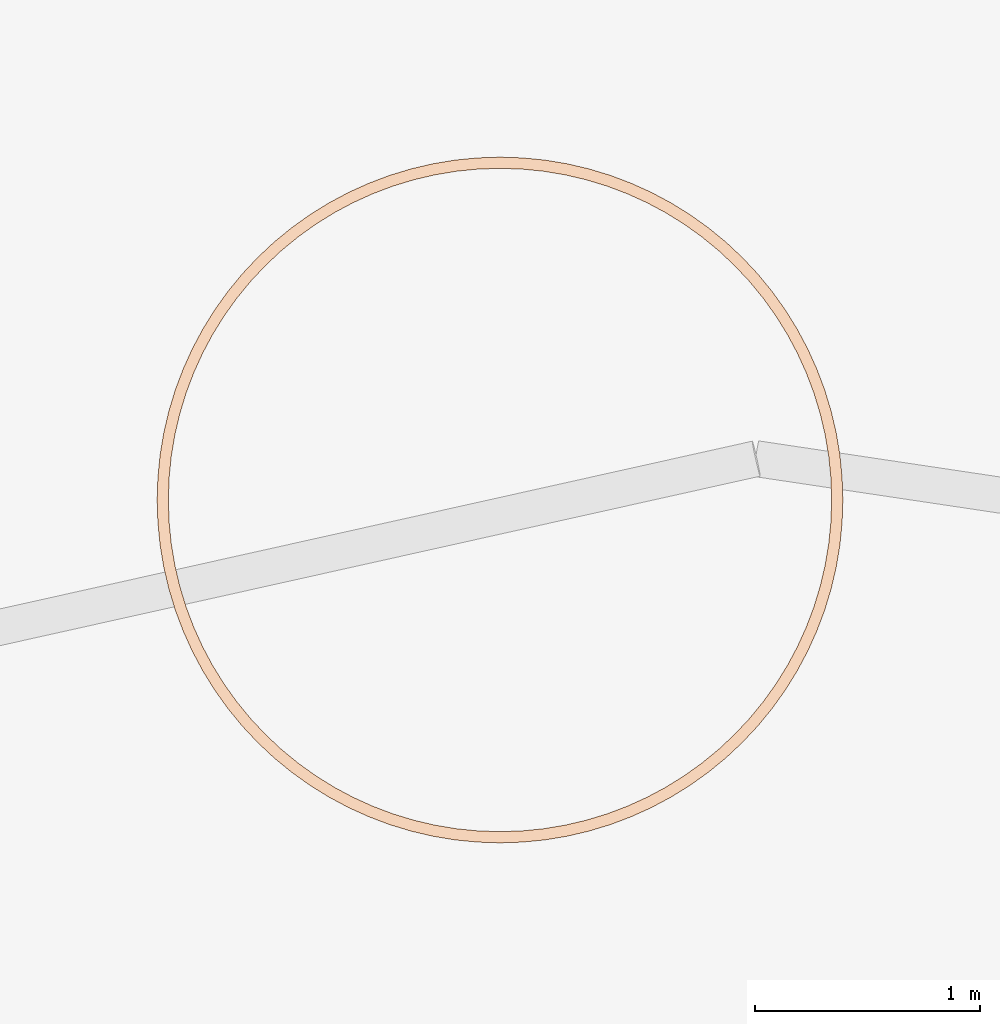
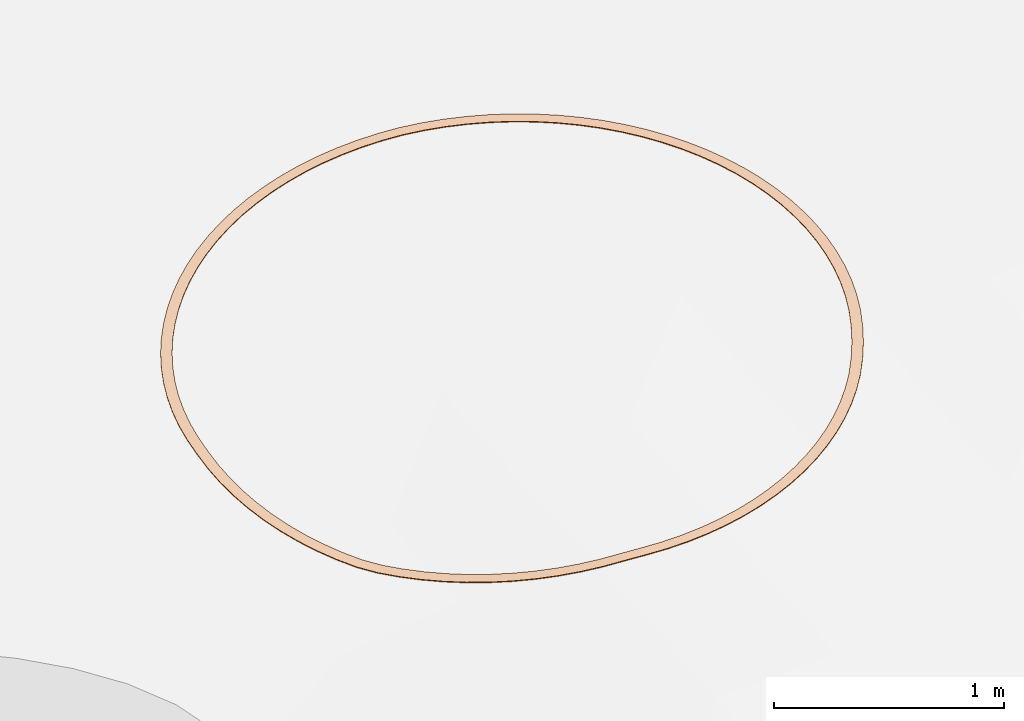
# Not in any storey, part 10 of 46: 1 geographic element.
"""IFC4 model written with IfcOpenShell, lengths in metres."""

from ifc_helpers import new_model, si_unit, direction, frame, origin_with_axes, place, context, subcontext, project, spatial, polygons, material, element, save


model = new_model("IFC4")

# Units and contexts
model_context = context("Model", 3, precision=1e-05, world=origin_with_axes(), true_north=direction((0.0, 1.0)))
body_context = subcontext(model_context, "Body", "Model", "MODEL_VIEW")
ifc_project = project(units=[si_unit("VOLUMEUNIT", "CUBIC_METRE"), si_unit("LENGTHUNIT", "METRE"), si_unit("AREAUNIT", "SQUARE_METRE")], contexts=[model_context])

# Site
site_placement = place(None, origin_with_axes())
site = spatial("IfcSite", under=ifc_project, at=site_placement, Name="Lares · Rua das Mercês · artigo 4771")

# Geographic element
ifc_material = material(Name="Marcação de plantação · linha no terreno", Category="stone")
geographic_element_placement = place(site_placement, frame((0.0, 0.0, 0.0), z_axis=(0.0, 0.0, 1.0), x_axis=(1.0, -1.03767253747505e-17, 0.0)))
element("IfcGeographicElement", 1, at=geographic_element_placement, inside=site, material=ifc_material, Name="Marcação no solo · árvore indicativa 02", ObjectType="Marcação no solo · árvore indicativa 02", PredefinedType="USERDEFINED", context=body_context, shape_type="Tessellation", body=[
    polygons([(4.16338140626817, 8.50666534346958, 12.3839815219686), (4.16338140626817, 8.50666534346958, 12.3879815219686), (4.21338140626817, 8.50666534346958, 12.3871584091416), (4.21338140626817, 8.50666534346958, 12.3911584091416), (4.16022331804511, 8.60313495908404, 12.3911306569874), (4.16022331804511, 8.60313495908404, 12.3951306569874), (4.21011626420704, 8.60640511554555, 12.3945498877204), (4.21011626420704, 8.60640511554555, 12.3985498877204), (4.15076257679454, 8.69919147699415, 12.3978478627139), (4.15076257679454, 8.69919147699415, 12.4018478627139), (4.20033481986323, 8.70571778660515, 12.4014947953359), (4.20033481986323, 8.70571778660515, 12.4054947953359), (4.13503969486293, 8.79442356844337, 12.4041043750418), (4.13503969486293, 8.79442356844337, 12.4081043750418), (4.18407895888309, 8.80417808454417, 12.4079633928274), (4.18407895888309, 8.80417808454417, 12.4119633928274), (4.11312200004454, 8.88842343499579, 12.4098734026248), (4.11312200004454, 8.88842343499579, 12.4138734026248), (4.16141829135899, 8.90136438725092, 12.4139279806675), (4.16141829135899, 8.90136438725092, 12.4179279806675), (4.08510334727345, 8.98078855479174, 12.4151302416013), (4.08510334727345, 8.98078855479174, 12.4191302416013), (4.1324498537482, 8.9968605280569, 12.4193630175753), (4.1324498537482, 8.9968605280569, 12.4233630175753), (4.05110371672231, 9.07112340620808, 12.4198523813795), (4.05110371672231, 9.07112340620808, 12.4238523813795), (4.09729769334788, 9.09025757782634, 12.4242452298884), (4.09729769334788, 9.09025757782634, 12.4282452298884), (4.01126870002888, 9.1590411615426, 12.424019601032), (4.01126870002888, 9.1590411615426, 12.428019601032), (4.05611233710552, 9.18115559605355, 12.4285537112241), (4.05611233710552, 9.18115559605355, 12.4325537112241), (3.96576887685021, 9.24416534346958, 12.4276140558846), (3.96576887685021, 9.24416534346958, 12.4316140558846), (4.00907014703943, 9.26916534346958, 12.4322700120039), (4.00907014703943, 9.26916534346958, 12.4362700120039), (3.91479908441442, 9.32613143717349, 12.4306203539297), (3.91479908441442, 9.32613143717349, 12.4346203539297), (3.95637256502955, 9.35390994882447, 12.4353782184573), (3.95637256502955, 9.35390994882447, 12.4393782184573), (3.85857758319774, 9.40458845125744, 12.4330256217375), (3.85857758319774, 9.40458845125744, 12.4370256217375), (3.8982452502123, 9.43502652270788, 12.437865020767), (3.8982452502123, 9.43502652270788, 12.441865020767), (3.79734512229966, 9.47920042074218, 12.434819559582), (3.79734512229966, 9.47920042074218, 12.438819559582), (3.83493711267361, 9.51216771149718, 12.4397197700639), (3.83493711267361, 9.51216771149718, 12.4437197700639), (3.73136390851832, 9.54964784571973, 12.435994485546), (3.73136390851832, 9.54964784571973, 12.439994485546), (3.76671924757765, 9.58500318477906, 12.4409345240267), (3.76671924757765, 9.58500318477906, 12.4449345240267), (3.66091648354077, 9.61562905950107, 12.4365453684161), (3.66091648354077, 9.61562905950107, 12.4405453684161), (3.69388377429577, 9.65322104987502, 12.4415040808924), (3.69388377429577, 9.65322104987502, 12.4455040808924), (3.58630451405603, 9.67686152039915, 12.4364698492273), (3.58630451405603, 9.67686152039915, 12.4404698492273), (3.61674258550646, 9.71652918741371, 12.4414260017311), (3.61674258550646, 9.71652918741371, 12.4454260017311), (3.50784749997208, 9.73308302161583, 12.4357682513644), (3.50784749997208, 9.73308302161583, 12.4397682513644), (3.53562601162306, 9.77465650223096, 12.4407006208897), (3.53562601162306, 9.77465650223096, 12.4447006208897), (3.42588140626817, 9.78405281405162, 12.434443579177), (3.42588140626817, 9.78405281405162, 12.438443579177), (3.45088140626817, 9.82735408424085, 12.4393310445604), (3.45088140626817, 9.82735408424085, 12.4433310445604), (3.34075722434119, 9.82955263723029, 12.4325015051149), (3.34075722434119, 9.82955263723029, 12.4365015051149), (3.36287165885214, 9.87439627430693, 12.4373231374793), (3.36287165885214, 9.87439627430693, 12.4413231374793), (3.25283946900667, 9.86938765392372, 12.4299503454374), (3.25283946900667, 9.86938765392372, 12.4339503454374), (3.27197364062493, 9.91558163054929, 12.4346854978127), (3.27197364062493, 9.91558163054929, 12.4386854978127), (3.16250461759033, 9.90338728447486, 12.4268010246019), (3.16250461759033, 9.90338728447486, 12.4308010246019), (3.17857659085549, 9.95073379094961, 12.4314294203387), (3.17857659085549, 9.95073379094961, 12.4354294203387), (3.07013949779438, 9.93140593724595, 12.4230670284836), (3.07013949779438, 9.93140593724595, 12.4270670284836), (3.08308045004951, 9.97970222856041, 12.4275688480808), (3.08308045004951, 9.97970222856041, 12.4315688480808), (2.97613963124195, 9.95332363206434, 12.4185183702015), (2.97613963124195, 9.95332363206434, 12.4225183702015), (2.98589414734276, 10.0023628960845, 12.4229092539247), (2.98589414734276, 10.0023628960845, 12.4269092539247), (2.88090753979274, 9.96904651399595, 12.4119199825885), (2.88090753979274, 9.96904651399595, 12.4159199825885), (2.88743384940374, 10.0186187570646, 12.4160871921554), (2.88743384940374, 10.0186187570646, 12.4200871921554), (2.78485102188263, 9.97850725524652, 12.4047951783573), (2.78485102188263, 9.97850725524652, 12.4087951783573), (2.78812117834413, 10.0284002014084, 12.4087208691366), (2.78812117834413, 10.0284002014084, 12.4127208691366), (2.68838140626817, 9.98166534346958, 12.3971744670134), (2.68838140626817, 9.98166534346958, 12.4011744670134), (2.68838140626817, 10.0316653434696, 12.4008418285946), (2.68838140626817, 10.0316653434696, 12.4048418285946), (2.5919117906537, 9.97850725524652, 12.3890904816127), (2.5919117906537, 9.97850725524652, 12.3930904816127), (2.5886416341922, 10.0284002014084, 12.3924838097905), (2.5886416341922, 10.0284002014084, 12.3964838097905), (2.49585527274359, 9.96904651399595, 12.3805778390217), (2.49585527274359, 9.96904651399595, 12.3845778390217), (2.48932896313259, 10.0186187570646, 12.3836826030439), (2.48932896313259, 10.0186187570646, 12.3876826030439), (2.40062318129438, 9.95332363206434, 12.3716729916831), (2.40062318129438, 9.95332363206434, 12.3756729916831), (2.39086866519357, 10.0023628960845, 12.3744758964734), (2.39086866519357, 10.0023628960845, 12.3784758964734), (2.30662331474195, 9.93140593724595, 12.36241407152), (2.30662331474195, 9.93140593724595, 12.36641407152), (2.29368236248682, 9.97970222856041, 12.36490311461), (2.29368236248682, 9.97970222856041, 12.36890311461), (2.214258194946, 9.90338728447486, 12.3528407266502), (2.214258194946, 9.90338728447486, 12.3568407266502), (2.19818622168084, 9.95073379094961, 12.3550052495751), (2.19818622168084, 9.95073379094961, 12.3590052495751), (2.12392334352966, 9.86938765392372, 12.3429939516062), (2.12392334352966, 9.86938765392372, 12.3469939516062), (2.1047891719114, 9.91558163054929, 12.3448246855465), (2.1047891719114, 9.91558163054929, 12.3488246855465), (2.03600558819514, 9.82955263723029, 12.3329159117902), (2.03600558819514, 9.82955263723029, 12.3369159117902), (2.01389115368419, 9.87439627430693, 12.3344050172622), (2.01389115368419, 9.87439627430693, 12.3384050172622), (1.95088140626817, 9.78405281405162, 12.3226497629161), (1.95088140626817, 9.78405281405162, 12.3266497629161), (1.92588140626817, 9.82735408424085, 12.3237908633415), (1.92588140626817, 9.82735408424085, 12.3277908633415), (1.86891531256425, 9.73308302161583, 12.3122394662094), (1.86891531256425, 9.73308302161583, 12.3162394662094), (1.84113680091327, 9.77465650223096, 12.313027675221), (1.84113680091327, 9.77465650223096, 12.317027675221), (1.7904582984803, 9.67686152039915, 12.3017296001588), (1.7904582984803, 9.67686152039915, 12.3057296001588), (1.76002022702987, 9.71652918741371, 12.3021615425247), (1.76002022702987, 9.71652918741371, 12.3061615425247), (1.71584632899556, 9.61562905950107, 12.2911651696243), (1.71584632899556, 9.61562905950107, 12.2951651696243), (1.68287903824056, 9.65322104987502, 12.2912389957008), (1.68287903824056, 9.65322104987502, 12.2952389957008), (1.64539890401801, 9.54964784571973, 12.2805914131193), (1.64539890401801, 9.54964784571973, 12.2845914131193), (1.61004356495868, 9.58500318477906, 12.2803068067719), (1.61004356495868, 9.58500318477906, 12.2843068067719), (1.57941769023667, 9.47920042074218, 12.2700536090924), (1.57941769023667, 9.47920042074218, 12.2740536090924), (1.54182569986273, 9.51216771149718, 12.2694117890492), (1.54182569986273, 9.51216771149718, 12.2734117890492), (1.51818522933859, 9.40458845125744, 12.2599517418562), (1.51818522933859, 9.40458845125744, 12.2639517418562), (1.47851756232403, 9.43502652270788, 12.2589503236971), (1.47851756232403, 9.43502652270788, 12.2629503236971), (1.46196372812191, 9.32613143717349, 12.2505755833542), (1.46196372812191, 9.32613143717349, 12.2545755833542), (1.42039024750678, 9.35390994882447, 12.2492563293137), (1.42039024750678, 9.35390994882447, 12.2532563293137), (1.41099393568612, 9.24416534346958, 12.2413660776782), (1.41099393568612, 9.24416534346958, 12.2453660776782), (1.3676926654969, 9.26916534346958, 12.2397346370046), (1.3676926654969, 9.26916534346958, 12.2437346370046), (1.36549411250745, 9.1590411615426, 12.2323626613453), (1.36549411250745, 9.1590411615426, 12.2363626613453), (1.32065047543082, 9.18115559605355, 12.230426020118), (1.32065047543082, 9.18115559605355, 12.234426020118), (1.32565909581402, 9.07112340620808, 12.2236038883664), (1.32565909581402, 9.07112340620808, 12.2276038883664), (1.27946511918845, 9.09025757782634, 12.2213703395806), (1.27946511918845, 9.09025757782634, 12.2253703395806), (1.29165946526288, 8.98078855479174, 12.2151272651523), (1.29165946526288, 8.98078855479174, 12.2191272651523), (1.24431295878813, 8.9968605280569, 12.2126063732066), (1.24431295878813, 8.9968605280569, 12.2166063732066), (1.26364081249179, 8.8884234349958, 12.2069690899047), (1.26364081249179, 8.8884234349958, 12.2109690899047), (1.21534452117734, 8.90136438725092, 12.2041716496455), (1.21534452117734, 8.90136438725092, 12.2081716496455), (1.2417231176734, 8.79442356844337, 12.1991642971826), (1.2417231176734, 8.79442356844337, 12.2031642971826), (1.19268385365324, 8.80417808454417, 12.1961022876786), (1.19268385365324, 8.80417808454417, 12.2001022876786), (1.22600023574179, 8.69919147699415, 12.1917463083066), (1.22600023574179, 8.69919147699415, 12.1957463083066), (1.1764279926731, 8.70571778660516, 12.1884328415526), (1.1764279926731, 8.70571778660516, 12.1924328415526), (1.21653949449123, 8.60313495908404, 12.1831346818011), (1.21653949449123, 8.60313495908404, 12.1871346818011), (1.1666465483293, 8.60640511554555, 12.1795671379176), (1.1666465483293, 8.60640511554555, 12.1835671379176), (1.21338140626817, 8.50666534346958, 12.1690509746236), (1.21338140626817, 8.50666534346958, 12.1730509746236), (1.16338140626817, 8.50666534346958, 12.1650060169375), (1.16338140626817, 8.50666534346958, 12.1690060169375), (1.21653949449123, 8.41019572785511, 12.1554782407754), (1.21653949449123, 8.41019572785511, 12.1594782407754), (1.1666465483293, 8.40692557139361, 12.1509731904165), (1.1666465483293, 8.40692557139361, 12.1549731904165), (1.22600023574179, 8.314139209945, 12.1424746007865), (1.22600023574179, 8.314139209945, 12.1464746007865), (1.1764279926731, 8.307612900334, 12.137528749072), (1.1764279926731, 8.307612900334, 12.141528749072), (1.2417231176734, 8.21890711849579, 12.1300957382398), (1.2417231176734, 8.21890711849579, 12.1340957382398), (1.19268385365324, 8.20915260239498, 12.124730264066), (1.19268385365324, 8.20915260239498, 12.128730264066), (1.26364081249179, 8.12490725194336, 12.1183946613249), (1.26364081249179, 8.12490725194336, 12.1223946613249), (1.21534452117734, 8.11196629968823, 12.1126325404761), (1.21534452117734, 8.11196629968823, 12.1166325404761), (1.29165946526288, 8.03254213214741, 12.1074214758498), (1.29165946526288, 8.03254213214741, 12.1114214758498), (1.24431295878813, 8.01647015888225, 12.101287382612), (1.24431295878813, 8.01647015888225, 12.105287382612), (1.32565909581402, 7.94220728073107, 12.0972231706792), (1.32565909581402, 7.94220728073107, 12.1012231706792), (1.27946511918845, 7.92307310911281, 12.0907433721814), (1.27946511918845, 7.92307310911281, 12.0947433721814), (1.36549411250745, 7.85428952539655, 12.0878434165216), (1.36549411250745, 7.85428952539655, 12.0918434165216), (1.32065047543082, 7.8321750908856, 12.0810456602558), (1.32065047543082, 7.8321750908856, 12.0850456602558), (1.41099393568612, 7.76916534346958, 12.0793223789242), (1.41099393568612, 7.76916534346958, 12.0833223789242), (1.3676926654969, 7.74416534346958, 12.0722357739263), (1.3676926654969, 7.74416534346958, 12.0762357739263), (1.46196372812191, 7.68719924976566, 12.0716965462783), (1.46196372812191, 7.68719924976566, 12.0756965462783), (1.42039024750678, 7.65942073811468, 12.0643514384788), (1.42039024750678, 7.65942073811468, 12.0683514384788), (1.51818522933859, 7.60874223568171, 12.0705163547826), (1.51818522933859, 7.60874223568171, 12.0745163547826), (1.47851756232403, 7.57830416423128, 12.0632426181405), (1.47851756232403, 7.57830416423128, 12.0672426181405), (1.57941769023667, 7.53413026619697, 12.0742939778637), (1.57941769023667, 7.53413026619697, 12.0782939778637), (1.54182569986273, 7.50116297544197, 12.0671482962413), (1.54182569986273, 7.50116297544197, 12.0711482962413), (1.64539890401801, 7.46368284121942, 12.0789742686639), (1.64539890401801, 7.46368284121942, 12.0829742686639), (1.61004356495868, 7.42832750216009, 12.0719872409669), (1.61004356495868, 7.42832750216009, 12.0759872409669), (1.71584632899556, 7.39770162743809, 12.0845371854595), (1.71584632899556, 7.39770162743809, 12.0885371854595), (1.68287903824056, 7.36010963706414, 12.0777387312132), (1.68287903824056, 7.36010963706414, 12.0817387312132), (1.7904582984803, 7.33646916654, 12.0909589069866), (1.7904582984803, 7.33646916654, 12.0949589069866), (1.76002022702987, 7.29680149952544, 12.0843781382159), (1.76002022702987, 7.29680149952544, 12.0883781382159), (1.86891531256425, 7.28024766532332, 12.098211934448), (1.86891531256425, 7.28024766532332, 12.102211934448), (1.84113680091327, 7.2386741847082, 12.0918770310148), (1.84113680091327, 7.2386741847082, 12.0958770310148), (1.95088140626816, 7.22927787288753, 12.1062652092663), (1.95088140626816, 7.22927787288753, 12.1102652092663), (1.92588140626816, 7.18597660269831, 12.1002032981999), (1.92588140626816, 7.18597660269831, 12.1042032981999), (2.03600558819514, 7.18377804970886, 12.1150842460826), (2.03600558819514, 7.18377804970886, 12.1190842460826), (2.01389115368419, 7.13893441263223, 12.1093212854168), (2.01389115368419, 7.13893441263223, 12.1133212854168), (2.12392334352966, 7.14394303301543, 12.1246312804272), (2.12392334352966, 7.14394303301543, 12.1286312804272), (2.1047891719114, 7.09774905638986, 12.1191919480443), (2.1047891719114, 7.09774905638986, 12.1231919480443), (2.214258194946, 7.1099434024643, 12.1348654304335), (2.214258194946, 7.1099434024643, 12.1388654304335), (2.19818622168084, 7.06259689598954, 12.1297730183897), (2.19818622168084, 7.06259689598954, 12.1337730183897), (2.30662331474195, 7.0819247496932, 12.1457428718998), (2.30662331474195, 7.0819247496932, 12.1497428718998), (2.29368236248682, 7.03362845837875, 12.1410191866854), (2.29368236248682, 7.03362845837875, 12.1450191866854), (2.40062318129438, 7.06000705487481, 12.1572170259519), (2.40062318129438, 7.06000705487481, 12.1612170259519), (2.39086866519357, 7.01096779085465, 12.1528822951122), (2.39086866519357, 7.01096779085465, 12.1568822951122), (2.49585527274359, 7.04428417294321, 12.163451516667), (2.49585527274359, 7.04428417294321, 12.167451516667), (2.48932896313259, 6.99471192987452, 12.1591001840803), (2.48932896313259, 6.99471192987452, 12.1631001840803), (2.5919117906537, 7.03482343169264, 12.1666562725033), (2.5919117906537, 7.03482343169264, 12.1706562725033), (2.5886416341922, 6.98493048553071, 12.1624135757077), (2.5886416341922, 6.98493048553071, 12.1664135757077), (2.68838140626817, 7.03166534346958, 12.1703969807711), (2.68838140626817, 7.03166534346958, 12.1743969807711), (2.68838140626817, 6.98166534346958, 12.1662810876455), (2.68838140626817, 6.98166534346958, 12.1702810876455), (2.78485102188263, 7.03482343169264, 12.1746576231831), (2.78485102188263, 7.03482343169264, 12.1786576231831), (2.78812117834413, 6.98493048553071, 12.1706861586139), (2.78812117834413, 6.98493048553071, 12.1746861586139), (2.88090753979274, 7.04428417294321, 12.1794199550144), (2.88090753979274, 7.04428417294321, 12.1834199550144), (2.88743384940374, 6.99471192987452, 12.1756099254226), (2.88743384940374, 6.99471192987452, 12.1796099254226), (2.97613963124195, 7.06000705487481, 12.1846635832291), (2.97613963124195, 7.06000705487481, 12.1886635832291), (2.98589414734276, 7.01096779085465, 12.1810313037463), (2.98589414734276, 7.01096779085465, 12.1850313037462), (3.07013949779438, 7.0819247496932, 12.1903660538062), (3.07013949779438, 7.0819247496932, 12.1943660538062), (3.08308045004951, 7.03362845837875, 12.1869270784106), (3.08308045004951, 7.03362845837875, 12.1909270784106), (3.16250461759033, 7.1099434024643, 12.196502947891), (3.16250461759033, 7.1099434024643, 12.200502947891), (3.17857659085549, 7.06259689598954, 12.1932720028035), (3.17857659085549, 7.06259689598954, 12.1972720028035), (3.25283946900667, 7.14394303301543, 12.2030479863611), (3.25283946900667, 7.14394303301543, 12.2070479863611), (3.27197364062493, 7.09774905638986, 12.2000389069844), (3.27197364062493, 7.09774905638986, 12.2040389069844), (3.34075722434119, 7.18377804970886, 12.2099731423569), (3.34075722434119, 7.18377804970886, 12.2139731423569), (3.36287165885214, 7.13893441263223, 12.2071988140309), (3.36287165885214, 7.13893441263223, 12.2111988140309), (3.42588140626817, 7.22927787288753, 12.2172487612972), (3.42588140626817, 7.22927787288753, 12.2212487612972), (3.45088140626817, 7.18597660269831, 12.2147210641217), (3.45088140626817, 7.18597660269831, 12.2187210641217), (3.50784749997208, 7.28024766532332, 12.2248436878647), (3.50784749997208, 7.28024766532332, 12.2288436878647), (3.53562601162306, 7.2386741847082, 12.2225734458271), (3.53562601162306, 7.2386741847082, 12.2265734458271), (3.58630451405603, 7.33646916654, 12.2327253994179), (3.58630451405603, 7.33646916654, 12.2367253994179), (3.61674258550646, 7.29680149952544, 12.2307223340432), (3.61674258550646, 7.29680149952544, 12.2347223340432), (3.66091648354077, 7.39770162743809, 12.240860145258), (3.66091648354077, 7.39770162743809, 12.244860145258), (3.69388377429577, 7.36010963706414, 12.2391328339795), (3.69388377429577, 7.36010963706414, 12.2431328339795), (3.73136390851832, 7.46368284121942, 12.2492130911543), (3.73136390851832, 7.46368284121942, 12.2532130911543), (3.76671924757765, 7.42832750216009, 12.2477689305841), (3.76671924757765, 7.42832750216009, 12.2517689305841), (3.79734512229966, 7.53413026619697, 12.2577484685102), (3.79734512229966, 7.53413026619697, 12.2617484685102), (3.83493711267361, 7.50116297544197, 12.2565936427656), (3.83493711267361, 7.50116297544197, 12.2605936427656), (3.85857758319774, 7.60874223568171, 12.2672990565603), (3.85857758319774, 7.60874223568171, 12.2712990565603), (3.8982452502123, 7.57830416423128, 12.2666052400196), (3.8982452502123, 7.57830416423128, 12.2706052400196), (3.91479908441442, 7.68719924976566, 12.283306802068), (3.91479908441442, 7.68719924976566, 12.287306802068), (3.95637256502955, 7.65942073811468, 12.2831556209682), (3.95637256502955, 7.65942073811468, 12.2871556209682), (3.96576887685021, 7.76916534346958, 12.2993336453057), (3.96576887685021, 7.76916534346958, 12.3033336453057), (4.00907014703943, 7.74416534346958, 12.2997257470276), (4.00907014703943, 7.74416534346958, 12.3037257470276), (4.01126870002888, 7.85428952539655, 12.3153109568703), (4.01126870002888, 7.85428952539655, 12.3193109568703), (4.05611233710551, 7.8321750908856, 12.316244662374), (4.05611233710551, 7.8321750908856, 12.320244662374), (4.05110371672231, 7.94220728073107, 12.3311703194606), (4.05110371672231, 7.94220728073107, 12.3351703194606), (4.09729769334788, 7.92307310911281, 12.3326416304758), (4.09729769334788, 7.92307310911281, 12.3366416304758), (4.08510334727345, 8.03254213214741, 12.3421333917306), (4.08510334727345, 8.03254213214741, 12.3461333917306), (4.1324498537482, 8.01647015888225, 12.3438932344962), (4.1324498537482, 8.01647015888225, 12.3478932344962), (4.11312200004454, 8.12490725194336, 12.3511829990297), (4.11312200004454, 8.12490725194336, 12.3551829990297), (4.16141829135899, 8.11196629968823, 12.3532496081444), (4.16141829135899, 8.11196629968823, 12.3572496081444), (4.13503969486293, 8.21890711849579, 12.3599715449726), (4.13503969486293, 8.21890711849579, 12.3639715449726), (4.18407895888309, 8.20915260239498, 12.3623360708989), (4.18407895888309, 8.20915260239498, 12.3663360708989), (4.15076257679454, 8.314139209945, 12.3684613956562), (4.15076257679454, 8.314139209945, 12.3724613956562), (4.20033481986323, 8.307612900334, 12.3711137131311), (4.20033481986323, 8.307612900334, 12.3751137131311), (4.16022331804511, 8.41019572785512, 12.3764310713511), (4.16022331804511, 8.41019572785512, 12.3804310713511), (4.21011626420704, 8.40692557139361, 12.3793520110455), (4.21011626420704, 8.40692557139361, 12.3833520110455)], [[[5, 7, 3, 1]], [[4, 8, 6, 2]], [[2, 6, 5, 1]], [[7, 8, 4, 3]], [[9, 11, 7, 5]], [[8, 12, 10, 6]], [[6, 10, 9, 5]], [[11, 12, 8, 7]], [[13, 15, 11, 9]], [[12, 16, 14, 10]], [[10, 14, 13, 9]], [[15, 16, 12, 11]], [[17, 19, 15, 13]], [[16, 20, 18, 14]], [[14, 18, 17, 13]], [[19, 20, 16, 15]], [[21, 23, 19, 17]], [[20, 24, 22, 18]], [[18, 22, 21, 17]], [[23, 24, 20, 19]], [[25, 27, 23, 21]], [[24, 28, 26, 22]], [[22, 26, 25, 21]], [[27, 28, 24, 23]], [[29, 31, 27, 25]], [[28, 32, 30, 26]], [[26, 30, 29, 25]], [[31, 32, 28, 27]], [[33, 35, 31, 29]], [[32, 36, 34, 30]], [[30, 34, 33, 29]], [[35, 36, 32, 31]], [[37, 39, 35, 33]], [[36, 40, 38, 34]], [[34, 38, 37, 33]], [[39, 40, 36, 35]], [[41, 43, 39, 37]], [[40, 44, 42, 38]], [[38, 42, 41, 37]], [[43, 44, 40, 39]], [[45, 47, 43, 41]], [[44, 48, 46, 42]], [[42, 46, 45, 41]], [[47, 48, 44, 43]], [[49, 51, 47, 45]], [[48, 52, 50, 46]], [[46, 50, 49, 45]], [[51, 52, 48, 47]], [[53, 55, 51, 49]], [[52, 56, 54, 50]], [[50, 54, 53, 49]], [[55, 56, 52, 51]], [[57, 59, 55, 53]], [[56, 60, 58, 54]], [[54, 58, 57, 53]], [[59, 60, 56, 55]], [[61, 63, 59, 57]], [[60, 64, 62, 58]], [[58, 62, 61, 57]], [[63, 64, 60, 59]], [[65, 67, 63, 61]], [[64, 68, 66, 62]], [[62, 66, 65, 61]], [[67, 68, 64, 63]], [[69, 71, 67, 65]], [[68, 72, 70, 66]], [[66, 70, 69, 65]], [[71, 72, 68, 67]], [[73, 75, 71, 69]], [[72, 76, 74, 70]], [[70, 74, 73, 69]], [[75, 76, 72, 71]], [[77, 79, 75, 73]], [[76, 80, 78, 74]], [[74, 78, 77, 73]], [[79, 80, 76, 75]], [[81, 83, 79, 77]], [[80, 84, 82, 78]], [[78, 82, 81, 77]], [[83, 84, 80, 79]], [[85, 87, 83, 81]], [[84, 88, 86, 82]], [[82, 86, 85, 81]], [[87, 88, 84, 83]], [[89, 91, 87, 85]], [[88, 92, 90, 86]], [[86, 90, 89, 85]], [[91, 92, 88, 87]], [[93, 95, 91, 89]], [[92, 96, 94, 90]], [[90, 94, 93, 89]], [[95, 96, 92, 91]], [[97, 99, 95, 93]], [[96, 100, 98, 94]], [[94, 98, 97, 93]], [[99, 100, 96, 95]], [[101, 103, 99, 97]], [[100, 104, 102, 98]], [[98, 102, 101, 97]], [[103, 104, 100, 99]], [[105, 107, 103, 101]], [[104, 108, 106, 102]], [[102, 106, 105, 101]], [[107, 108, 104, 103]], [[109, 111, 107, 105]], [[108, 112, 110, 106]], [[106, 110, 109, 105]], [[111, 112, 108, 107]], [[113, 115, 111, 109]], [[112, 116, 114, 110]], [[110, 114, 113, 109]], [[115, 116, 112, 111]], [[117, 119, 115, 113]], [[116, 120, 118, 114]], [[114, 118, 117, 113]], [[119, 120, 116, 115]], [[121, 123, 119, 117]], [[120, 124, 122, 118]], [[118, 122, 121, 117]], [[123, 124, 120, 119]], [[125, 127, 123, 121]], [[124, 128, 126, 122]], [[122, 126, 125, 121]], [[127, 128, 124, 123]], [[129, 131, 127, 125]], [[128, 132, 130, 126]], [[126, 130, 129, 125]], [[131, 132, 128, 127]], [[133, 135, 131, 129]], [[132, 136, 134, 130]], [[130, 134, 133, 129]], [[135, 136, 132, 131]], [[137, 139, 135, 133]], [[136, 140, 138, 134]], [[134, 138, 137, 133]], [[139, 140, 136, 135]], [[141, 143, 139, 137]], [[140, 144, 142, 138]], [[138, 142, 141, 137]], [[143, 144, 140, 139]], [[145, 147, 143, 141]], [[144, 148, 146, 142]], [[142, 146, 145, 141]], [[147, 148, 144, 143]], [[149, 151, 147, 145]], [[148, 152, 150, 146]], [[146, 150, 149, 145]], [[151, 152, 148, 147]], [[153, 155, 151, 149]], [[152, 156, 154, 150]], [[150, 154, 153, 149]], [[155, 156, 152, 151]], [[157, 159, 155, 153]], [[156, 160, 158, 154]], [[154, 158, 157, 153]], [[159, 160, 156, 155]], [[161, 163, 159, 157]], [[160, 164, 162, 158]], [[158, 162, 161, 157]], [[163, 164, 160, 159]], [[165, 167, 163, 161]], [[164, 168, 166, 162]], [[162, 166, 165, 161]], [[167, 168, 164, 163]], [[169, 171, 167, 165]], [[168, 172, 170, 166]], [[166, 170, 169, 165]], [[171, 172, 168, 167]], [[173, 175, 171, 169]], [[172, 176, 174, 170]], [[170, 174, 173, 169]], [[175, 176, 172, 171]], [[177, 179, 175, 173]], [[176, 180, 178, 174]], [[174, 178, 177, 173]], [[179, 180, 176, 175]], [[181, 183, 179, 177]], [[180, 184, 182, 178]], [[178, 182, 181, 177]], [[183, 184, 180, 179]], [[185, 187, 183, 181]], [[184, 188, 186, 182]], [[182, 186, 185, 181]], [[187, 188, 184, 183]], [[189, 191, 187, 185]], [[188, 192, 190, 186]], [[186, 190, 189, 185]], [[191, 192, 188, 187]], [[193, 195, 191, 189]], [[192, 196, 194, 190]], [[190, 194, 193, 189]], [[195, 196, 192, 191]], [[197, 199, 195, 193]], [[196, 200, 198, 194]], [[194, 198, 197, 193]], [[199, 200, 196, 195]], [[201, 203, 199, 197]], [[200, 204, 202, 198]], [[198, 202, 201, 197]], [[203, 204, 200, 199]], [[205, 207, 203, 201]], [[204, 208, 206, 202]], [[202, 206, 205, 201]], [[207, 208, 204, 203]], [[209, 211, 207, 205]], [[208, 212, 210, 206]], [[206, 210, 209, 205]], [[211, 212, 208, 207]], [[213, 215, 211, 209]], [[212, 216, 214, 210]], [[210, 214, 213, 209]], [[215, 216, 212, 211]], [[217, 219, 215, 213]], [[216, 220, 218, 214]], [[214, 218, 217, 213]], [[219, 220, 216, 215]], [[221, 223, 219, 217]], [[220, 224, 222, 218]], [[218, 222, 221, 217]], [[223, 224, 220, 219]], [[225, 227, 223, 221]], [[224, 228, 226, 222]], [[222, 226, 225, 221]], [[227, 228, 224, 223]], [[229, 231, 227, 225]], [[228, 232, 230, 226]], [[226, 230, 229, 225]], [[231, 232, 228, 227]], [[233, 235, 231, 229]], [[232, 236, 234, 230]], [[230, 234, 233, 229]], [[235, 236, 232, 231]], [[237, 239, 235, 233]], [[236, 240, 238, 234]], [[234, 238, 237, 233]], [[239, 240, 236, 235]], [[241, 243, 239, 237]], [[240, 244, 242, 238]], [[238, 242, 241, 237]], [[243, 244, 240, 239]], [[245, 247, 243, 241]], [[244, 248, 246, 242]], [[242, 246, 245, 241]], [[247, 248, 244, 243]], [[249, 251, 247, 245]], [[248, 252, 250, 246]], [[246, 250, 249, 245]], [[251, 252, 248, 247]], [[253, 255, 251, 249]], [[252, 256, 254, 250]], [[250, 254, 253, 249]], [[255, 256, 252, 251]], [[257, 259, 255, 253]], [[256, 260, 258, 254]], [[254, 258, 257, 253]], [[259, 260, 256, 255]], [[261, 263, 259, 257]], [[260, 264, 262, 258]], [[258, 262, 261, 257]], [[263, 264, 260, 259]], [[265, 267, 263, 261]], [[264, 268, 266, 262]], [[262, 266, 265, 261]], [[267, 268, 264, 263]], [[269, 271, 267, 265]], [[268, 272, 270, 266]], [[266, 270, 269, 265]], [[271, 272, 268, 267]], [[273, 275, 271, 269]], [[272, 276, 274, 270]], [[270, 274, 273, 269]], [[275, 276, 272, 271]], [[277, 279, 275, 273]], [[276, 280, 278, 274]], [[274, 278, 277, 273]], [[279, 280, 276, 275]], [[281, 283, 279, 277]], [[280, 284, 282, 278]], [[278, 282, 281, 277]], [[283, 284, 280, 279]], [[285, 287, 283, 281]], [[284, 288, 286, 282]], [[282, 286, 285, 281]], [[287, 288, 284, 283]], [[289, 291, 287, 285]], [[288, 292, 290, 286]], [[286, 290, 289, 285]], [[291, 292, 288, 287]], [[293, 295, 291, 289]], [[292, 296, 294, 290]], [[290, 294, 293, 289]], [[295, 296, 292, 291]], [[297, 299, 295, 293]], [[296, 300, 298, 294]], [[294, 298, 297, 293]], [[299, 300, 296, 295]], [[301, 303, 299, 297]], [[300, 304, 302, 298]], [[298, 302, 301, 297]], [[303, 304, 300, 299]], [[305, 307, 303, 301]], [[304, 308, 306, 302]], [[302, 306, 305, 301]], [[307, 308, 304, 303]], [[309, 311, 307, 305]], [[308, 312, 310, 306]], [[306, 310, 309, 305]], [[311, 312, 308, 307]], [[313, 315, 311, 309]], [[312, 316, 314, 310]], [[310, 314, 313, 309]], [[315, 316, 312, 311]], [[317, 319, 315, 313]], [[316, 320, 318, 314]], [[314, 318, 317, 313]], [[319, 320, 316, 315]], [[321, 323, 319, 317]], [[320, 324, 322, 318]], [[318, 322, 321, 317]], [[323, 324, 320, 319]], [[325, 327, 323, 321]], [[324, 328, 326, 322]], [[322, 326, 325, 321]], [[327, 328, 324, 323]], [[329, 331, 327, 325]], [[328, 332, 330, 326]], [[326, 330, 329, 325]], [[331, 332, 328, 327]], [[333, 335, 331, 329]], [[332, 336, 334, 330]], [[330, 334, 333, 329]], [[335, 336, 332, 331]], [[337, 339, 335, 333]], [[336, 340, 338, 334]], [[334, 338, 337, 333]], [[339, 340, 336, 335]], [[341, 343, 339, 337]], [[340, 344, 342, 338]], [[338, 342, 341, 337]], [[343, 344, 340, 339]], [[345, 347, 343, 341]], [[344, 348, 346, 342]], [[342, 346, 345, 341]], [[347, 348, 344, 343]], [[349, 351, 347, 345]], [[348, 352, 350, 346]], [[346, 350, 349, 345]], [[351, 352, 348, 347]], [[353, 355, 351, 349]], [[352, 356, 354, 350]], [[350, 354, 353, 349]], [[355, 356, 352, 351]], [[357, 359, 355, 353]], [[356, 360, 358, 354]], [[354, 358, 357, 353]], [[359, 360, 356, 355]], [[361, 363, 359, 357]], [[360, 364, 362, 358]], [[358, 362, 361, 357]], [[363, 364, 360, 359]], [[365, 367, 363, 361]], [[364, 368, 366, 362]], [[362, 366, 365, 361]], [[367, 368, 364, 363]], [[369, 371, 367, 365]], [[368, 372, 370, 366]], [[366, 370, 369, 365]], [[371, 372, 368, 367]], [[373, 375, 371, 369]], [[372, 376, 374, 370]], [[370, 374, 373, 369]], [[375, 376, 372, 371]], [[377, 379, 375, 373]], [[376, 380, 378, 374]], [[374, 378, 377, 373]], [[379, 380, 376, 375]], [[381, 383, 379, 377]], [[380, 384, 382, 378]], [[378, 382, 381, 377]], [[383, 384, 380, 379]], [[1, 3, 383, 381]], [[384, 4, 2, 382]], [[382, 2, 1, 381]], [[3, 4, 384, 383]]]),
])

save(model, "model.ifc")
